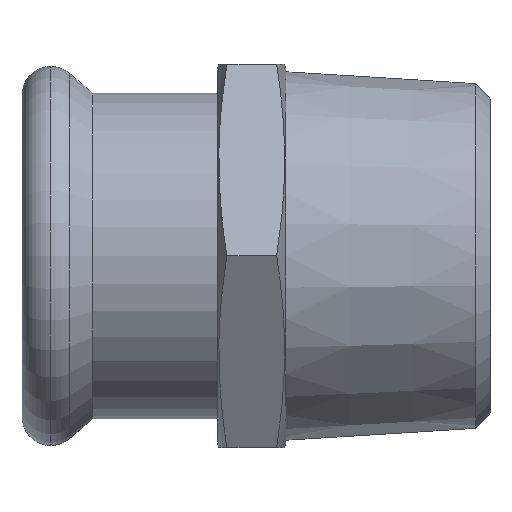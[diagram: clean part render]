
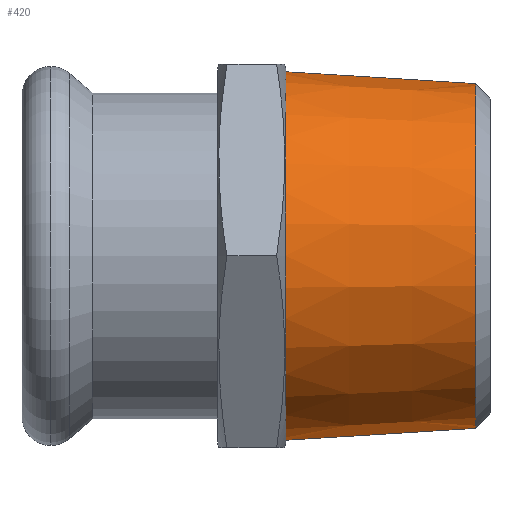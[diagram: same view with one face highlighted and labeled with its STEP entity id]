
A CAD part, top view. The second image highlights one B-rep face of the part: STEP entity #420.
In plain terms, the highlighted conical face has half-angle 3.576 degrees and reference radius 21.65 mm.
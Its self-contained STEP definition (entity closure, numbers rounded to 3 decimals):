
#10=CARTESIAN_POINT('',(-75.571,-431.955,
0.));
#20=DIRECTION('',(-1.,0.,0.));
#30=DIRECTION('',(0.,-1.,0.));
#40=AXIS2_PLACEMENT_3D('',#10,#20,#30);
#50=CONICAL_SURFACE('',#40,21.65,0.062);
#60=CARTESIAN_POINT('',(-75.571,-453.605,
0.));
#70=DIRECTION('',(-0.998,-0.062,
0.));
#80=VECTOR('',#70,1.);
#90=LINE('',#60,#80);
#100=CARTESIAN_POINT('',(-53.267,-452.211,
0.));
#110=VERTEX_POINT('',#100);
#120=CARTESIAN_POINT('',(-75.571,-453.605,
0.));
#130=VERTEX_POINT('',#120);
#140=EDGE_CURVE('',#110,#130,#90,.T.);
#150=ORIENTED_EDGE('',*,*,#140,.F.);
#160=CARTESIAN_POINT('',(-75.571,-431.955,
0.));
#170=DIRECTION('',(-1.,0.,0.));
#180=DIRECTION('',(0.,-1.,0.));
#190=AXIS2_PLACEMENT_3D('',#160,#170,#180);
#200=CIRCLE('',#190,21.65);
#210=CARTESIAN_POINT('',(-75.571,-410.305,
0.));
#220=VERTEX_POINT('',#210);
#230=EDGE_CURVE('',#130,#220,#200,.T.);
#240=ORIENTED_EDGE('',*,*,#230,.F.);
#250=CARTESIAN_POINT('',(-75.571,-410.305,
0.));
#260=DIRECTION('',(-0.998,0.062,
0.));
#270=VECTOR('',#260,1.);
#280=LINE('',#250,#270);
#290=CARTESIAN_POINT('',(-53.267,-411.699,
0.));
#300=VERTEX_POINT('',#290);
#310=EDGE_CURVE('',#300,#220,#280,.T.);
#320=ORIENTED_EDGE('',*,*,#310,.T.);
#330=CARTESIAN_POINT('',(-53.267,-431.955,
0.));
#340=DIRECTION('',(-1.,0.,0.));
#350=DIRECTION('',(0.,-1.,0.));
#360=AXIS2_PLACEMENT_3D('',#330,#340,#350);
#370=CIRCLE('',#360,20.256);
#380=EDGE_CURVE('',#110,#300,#370,.T.);
#390=ORIENTED_EDGE('',*,*,#380,.T.);
#400=EDGE_LOOP('',(#390,#320,#240,#150));
#410=FACE_OUTER_BOUND('',#400,.T.);
#420=ADVANCED_FACE('',(#410),#50,.T.);
